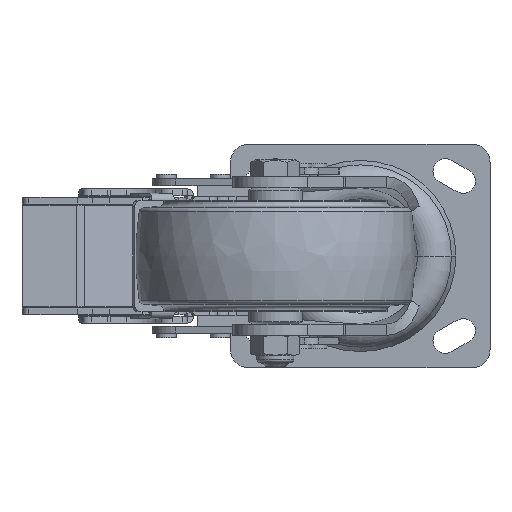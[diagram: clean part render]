
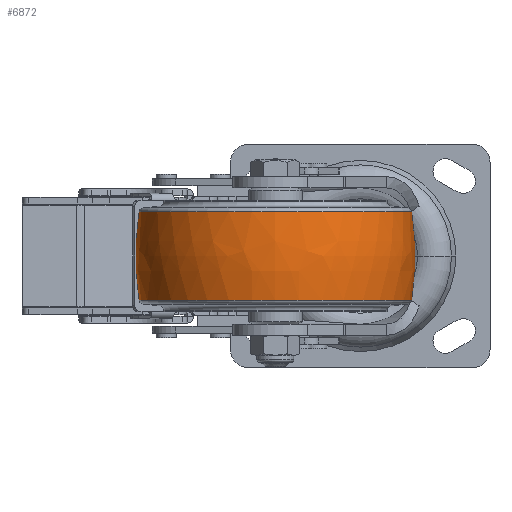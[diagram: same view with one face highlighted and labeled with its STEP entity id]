
A CAD part, front view. The second image highlights one B-rep face of the part: STEP entity #6872.
In plain terms, the highlighted free-form (B-spline) face has degree [3, 3] with [7, 4] control points.
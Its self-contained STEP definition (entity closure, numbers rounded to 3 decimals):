
#5223=CARTESIAN_POINT('',(0.,-64.241,0.));
#5224=DIRECTION('',(0.,0.,1.));
#5225=DIRECTION('',(0.156,0.988,0.));
#5226=AXIS2_PLACEMENT_3D('',#5223,#5224,#5225);
#5228=CARTESIAN_POINT('',(0.,64.241,
0.));
#5229=DIRECTION('',(0.,0.,-1.));
#5230=DIRECTION('',(0.156,-0.988,0.));
#5231=AXIS2_PLACEMENT_3D('',#5228,#5229,#5230);
#5233=CARTESIAN_POINT('',(19.804,0.,0.));
#5234=DIRECTION('',(-1.,0.,0.));
#5235=DIRECTION('',(0.,1.,0.));
#5236=AXIS2_PLACEMENT_3D('',#5233,#5234,#5235);
#5248=CARTESIAN_POINT('',(-19.804,0.,0.));
#5249=DIRECTION('',(-1.,0.,0.));
#5250=DIRECTION('',(0.,1.,0.));
#5251=AXIS2_PLACEMENT_3D('',#5248,#5249,#5250);
#5620=CARTESIAN_POINT('',(19.804,60.943,0.));
#5621=VERTEX_POINT('',#5620);
#5622=CARTESIAN_POINT('',(-19.804,60.943,0.));
#5623=VERTEX_POINT('',#5622);
#5640=CARTESIAN_POINT('',(19.804,-60.943,
0.));
#5641=VERTEX_POINT('',#5640);
#5642=CARTESIAN_POINT('',(-19.804,-60.943,
0.));
#5643=VERTEX_POINT('',#5642);
#6836=CARTESIAN_POINT('',(-20.589,-60.696,
3.819));
#6837=CARTESIAN_POINT('',(-6.924,-62.942,
3.96));
#6838=CARTESIAN_POINT('',(6.924,-62.942,3.96));
#6839=CARTESIAN_POINT('',(20.589,-60.696,3.819));
#6840=CARTESIAN_POINT('',(-20.589,-63.046,
-33.534));
#6841=CARTESIAN_POINT('',(-6.924,-65.379,
-34.774));
#6842=CARTESIAN_POINT('',(6.924,-65.379,
-34.774));
#6843=CARTESIAN_POINT('',(20.589,-63.046,
-33.534));
#6844=CARTESIAN_POINT('',(-20.589,-37.426,
-60.816));
#6845=CARTESIAN_POINT('',(-6.924,-38.811,
-63.066));
#6846=CARTESIAN_POINT('',(6.924,-38.811,
-63.066));
#6847=CARTESIAN_POINT('',(20.589,-37.426,
-60.816));
#6848=CARTESIAN_POINT('',(-20.589,0.,
-60.816));
#6849=CARTESIAN_POINT('',(-6.924,0.,
-63.066));
#6850=CARTESIAN_POINT('',(6.924,0.,
-63.066));
#6851=CARTESIAN_POINT('',(20.589,0.,
-60.816));
#6852=CARTESIAN_POINT('',(-20.589,37.426,
-60.816));
#6853=CARTESIAN_POINT('',(-6.924,38.811,
-63.066));
#6854=CARTESIAN_POINT('',(6.924,38.811,-63.066));
#6855=CARTESIAN_POINT('',(20.589,37.426,-60.816));
#6856=CARTESIAN_POINT('',(-20.589,63.046,
-33.534));
#6857=CARTESIAN_POINT('',(-6.924,65.379,
-34.774));
#6858=CARTESIAN_POINT('',(6.924,65.379,-34.774));
#6859=CARTESIAN_POINT('',(20.589,63.046,-33.534));
#6860=CARTESIAN_POINT('',(-20.589,60.696,3.819));
#6861=CARTESIAN_POINT('',(-6.924,62.942,3.96));
#6862=CARTESIAN_POINT('',(6.924,62.942,3.96));
#6863=CARTESIAN_POINT('',(20.589,60.696,3.819));
#6864=(BOUNDED_SURFACE()B_SPLINE_SURFACE(3,3,((#6836,#6837,#6838,#6839),(#6840,
#6841,#6842,#6843),(#6844,#6845,#6846,#6847),(#6848,#6849,#6850,#6851),(#6852,
#6853,#6854,#6855),(#6856,#6857,#6858,#6859),(#6860,#6861,#6862,#6863)),
.UNSPECIFIED.,.F.,.F.,.F.)B_SPLINE_SURFACE_WITH_KNOTS((4,3,4),(4,4),(0.,1.,
2.),(0.,1.),.UNSPECIFIED.)GEOMETRIC_REPRESENTATION_ITEM()RATIONAL_B_SPLINE_SURFACE(((1.195,1.185,1.185,1.195),(
0.944,0.935,0.935,0.944),(
0.944,0.935,0.935,0.944),(
1.195,1.185,1.185,1.195),(
0.944,0.935,0.935,0.944),(
0.944,0.935,0.935,0.944),(
1.195,1.185,1.185,1.195)))REPRESENTATION_ITEM('')SURFACE());
#6865=ORIENTED_EDGE('',*,*,#6826,.T.);
#6867=ORIENTED_EDGE('',*,*,#6866,.T.);
#6868=ORIENTED_EDGE('',*,*,#6829,.F.);
#6869=ORIENTED_EDGE('',*,*,#6776,.F.);
#6870=EDGE_LOOP('',(#6865,#6867,#6868,#6869));
#6871=FACE_OUTER_BOUND('',#6870,.F.);
#5227=CIRCLE('',#5226,126.741);
#5232=CIRCLE('',#5231,126.741);
#5237=CIRCLE('',#5236,60.943);
#5252=CIRCLE('',#5251,60.943);
#6776=EDGE_CURVE('',#5621,#5641,#5237,.T.);
#6826=EDGE_CURVE('',#5621,#5623,#5227,.T.);
#6829=EDGE_CURVE('',#5641,#5643,#5232,.T.);
#6866=EDGE_CURVE('',#5623,#5643,#5252,.T.);
#6872=ADVANCED_FACE('',(#6871),#6864,.T.);
